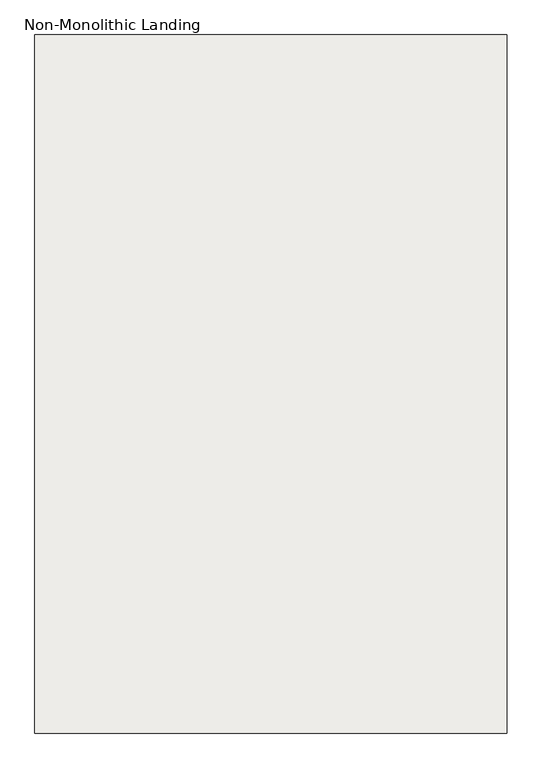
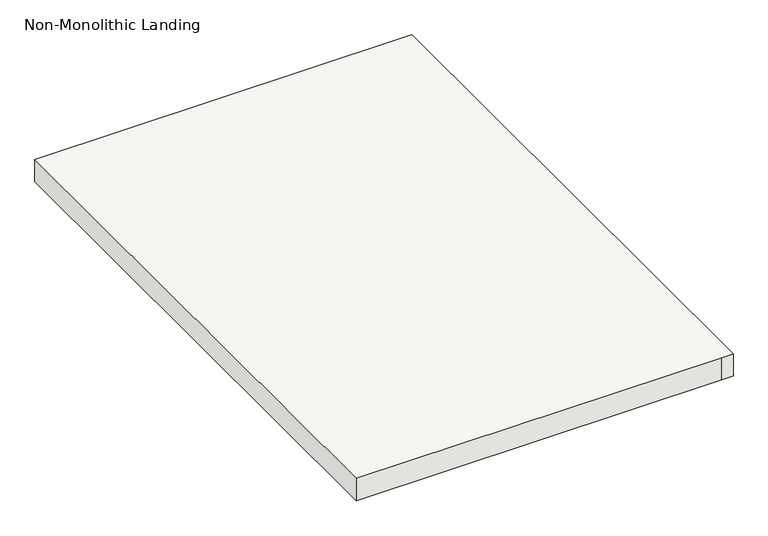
"""IFC4 building model written with IfcOpenShell, lengths in millimetres: slab geometry, Non-Monolithic Landing."""

from ifc_helpers import new_model, si_unit, frame, origin, place, context, project, spatial, polyline, outline, extrude, source, transform, mapped, element, save


def non_monolithic_landing_1ae36870(model_context):
    return source(origin(), model_context, "Body", "SweptSolid", [
        extrude(outline(polyline([(-15652.4813244, -30221.1689116), (-14865.0813244, -30221.1689116), (-14839.6813244, -30221.1689116), (-14839.6813244, -31422.1775116), (-14865.0813244, -31422.1775116), (-15652.4813244, -31422.1775116), (-15652.4813244, -30221.1689116)])), frame((0.0, 0.0, 1690.9142857), z_axis=(0.0, 0.0, 1.0), x_axis=(1.0, 0.0, 0.0)), (0.0, 0.0, 1.0), 50.8),
    ])


if __name__ == "__main__":
    model = new_model("IFC4")
    model_context = context("Model", 3, world=origin())
    ifc_project = project(units=[si_unit("LENGTHUNIT", "METRE", prefix="MILLI")], contexts=[model_context])
    site = spatial("IfcSite", under=ifc_project)
    building = spatial("IfcBuilding", under=site)
    placement = place(None, origin())
    non_monolithic_landing_shape = non_monolithic_landing_1ae36870(model_context)
    element("IfcSlab", 1, ObjectType="Non-Monolithic Landing", at=placement, inside=building, context=model_context, shape_type="MappedRepresentation", body=[
        mapped(non_monolithic_landing_shape, transform((0.0, 0.0, 0.0), x_axis=(1.0, 0.0, 0.0), y_axis=(0.0, 1.0, 0.0), z_axis=(0.0, 0.0, 1.0))),
    ])
    save(model, "model.ifc")
